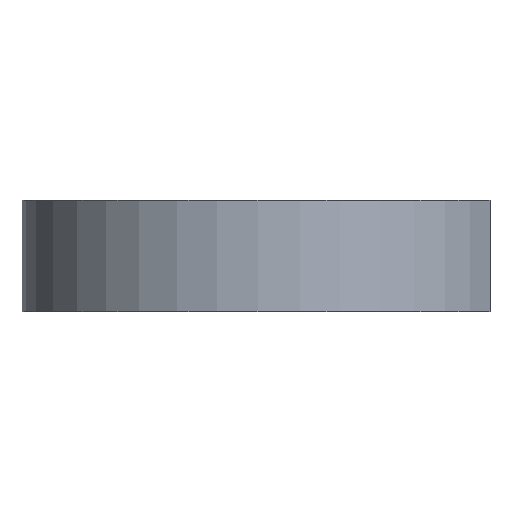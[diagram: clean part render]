
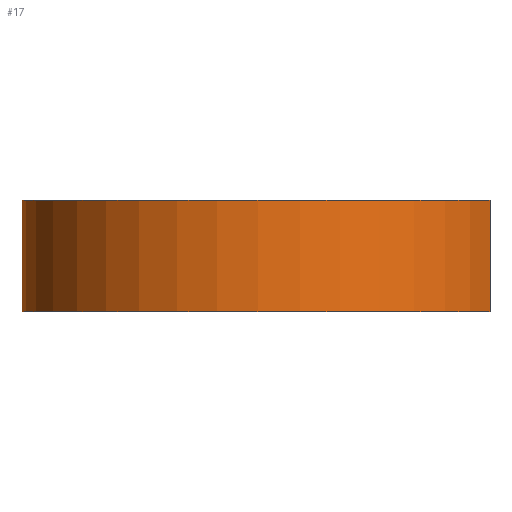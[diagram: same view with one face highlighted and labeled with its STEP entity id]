
A CAD part, front view. The second image highlights one B-rep face of the part: STEP entity #17.
In plain terms, the highlighted cylindrical face has radius 3.95 mm (diameter 7.9 mm), a partial arc.
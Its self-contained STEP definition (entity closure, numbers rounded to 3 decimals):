
#17 = ADVANCED_FACE('',(#18),#33,.T.);
#18 = FACE_BOUND('',#19,.T.);
#19 = EDGE_LOOP('',(#20,#56,#82,#111));
#20 = ORIENTED_EDGE('',*,*,#21,.F.);
#21 = EDGE_CURVE('',#22,#24,#26,.T.);
#22 = VERTEX_POINT('',#23);
#23 = CARTESIAN_POINT('',(3.627,1.564,0.9));
#24 = VERTEX_POINT('',#25);
#25 = CARTESIAN_POINT('',(3.627,-1.564,0.9));
#26 = SURFACE_CURVE('',#27,(#32,#44),.PCURVE_S1.);
#27 = CIRCLE('',#28,3.95);
#28 = AXIS2_PLACEMENT_3D('',#29,#30,#31);
#29 = CARTESIAN_POINT('',(0.,0.,0.9));
#30 = DIRECTION('',(0.,0.,1.));
#31 = DIRECTION('',(1.,0.,-0.));
#32 = PCURVE('',#33,#38);
#33 = CYLINDRICAL_SURFACE('',#34,3.95);
#34 = AXIS2_PLACEMENT_3D('',#35,#36,#37);
#35 = CARTESIAN_POINT('',(0.,0.,-0.9));
#36 = DIRECTION('',(0.,0.,1.));
#37 = DIRECTION('',(1.,0.,-0.));
#38 = DEFINITIONAL_REPRESENTATION('',(#39),#43);
#39 = LINE('',#40,#41);
#40 = CARTESIAN_POINT('',(0.,1.8));
#41 = VECTOR('',#42,1.);
#42 = DIRECTION('',(1.,0.));
#43 = ( GEOMETRIC_REPRESENTATION_CONTEXT(2) 
PARAMETRIC_REPRESENTATION_CONTEXT() REPRESENTATION_CONTEXT('2D SPACE',''
  ) );
#44 = PCURVE('',#45,#50);
#45 = PLANE('',#46);
#46 = AXIS2_PLACEMENT_3D('',#47,#48,#49);
#47 = CARTESIAN_POINT('',(0.,0.,0.9));
#48 = DIRECTION('',(0.,0.,1.));
#49 = DIRECTION('',(1.,0.,-0.));
#50 = DEFINITIONAL_REPRESENTATION('',(#51),#55);
#51 = CIRCLE('',#52,3.95);
#52 = AXIS2_PLACEMENT_2D('',#53,#54);
#53 = CARTESIAN_POINT('',(0.,0.));
#54 = DIRECTION('',(1.,0.));
#55 = ( GEOMETRIC_REPRESENTATION_CONTEXT(2) 
PARAMETRIC_REPRESENTATION_CONTEXT() REPRESENTATION_CONTEXT('2D SPACE',''
  ) );
#56 = ORIENTED_EDGE('',*,*,#57,.F.);
#57 = EDGE_CURVE('',#58,#22,#60,.T.);
#58 = VERTEX_POINT('',#59);
#59 = CARTESIAN_POINT('',(3.627,1.564,-0.9));
#60 = SURFACE_CURVE('',#61,(#65,#71),.PCURVE_S1.);
#61 = LINE('',#62,#63);
#62 = CARTESIAN_POINT('',(3.627,1.564,-0.9));
#63 = VECTOR('',#64,1.);
#64 = DIRECTION('',(0.,0.,1.));
#65 = PCURVE('',#33,#66);
#66 = DEFINITIONAL_REPRESENTATION('',(#67),#70);
#67 = B_SPLINE_CURVE_WITH_KNOTS('',1,(#68,#69),.UNSPECIFIED.,.F.,.F.,(2,
    2),(0.,1.8),.PIECEWISE_BEZIER_KNOTS.);
#68 = CARTESIAN_POINT('',(0.407,0.));
#69 = CARTESIAN_POINT('',(0.407,1.8));
#70 = ( GEOMETRIC_REPRESENTATION_CONTEXT(2) 
PARAMETRIC_REPRESENTATION_CONTEXT() REPRESENTATION_CONTEXT('2D SPACE',''
  ) );
#71 = PCURVE('',#72,#77);
#72 = PLANE('',#73);
#73 = AXIS2_PLACEMENT_3D('',#74,#75,#76);
#74 = CARTESIAN_POINT('',(-1.,1.564,-0.92));
#75 = DIRECTION('',(-0.,1.,0.));
#76 = DIRECTION('',(0.,0.,1.));
#77 = DEFINITIONAL_REPRESENTATION('',(#78),#81);
#78 = B_SPLINE_CURVE_WITH_KNOTS('',1,(#79,#80),.UNSPECIFIED.,.F.,.F.,(2,
    2),(0.,1.8),.PIECEWISE_BEZIER_KNOTS.);
#79 = CARTESIAN_POINT('',(0.02,4.627));
#80 = CARTESIAN_POINT('',(1.82,4.627));
#81 = ( GEOMETRIC_REPRESENTATION_CONTEXT(2) 
PARAMETRIC_REPRESENTATION_CONTEXT() REPRESENTATION_CONTEXT('2D SPACE',''
  ) );
#82 = ORIENTED_EDGE('',*,*,#83,.T.);
#83 = EDGE_CURVE('',#58,#84,#86,.T.);
#84 = VERTEX_POINT('',#85);
#85 = CARTESIAN_POINT('',(3.627,-1.564,-0.9));
#86 = SURFACE_CURVE('',#87,(#92,#99),.PCURVE_S1.);
#87 = CIRCLE('',#88,3.95);
#88 = AXIS2_PLACEMENT_3D('',#89,#90,#91);
#89 = CARTESIAN_POINT('',(0.,0.,-0.9));
#90 = DIRECTION('',(0.,0.,1.));
#91 = DIRECTION('',(1.,0.,-0.));
#92 = PCURVE('',#33,#93);
#93 = DEFINITIONAL_REPRESENTATION('',(#94),#98);
#94 = LINE('',#95,#96);
#95 = CARTESIAN_POINT('',(0.,0.));
#96 = VECTOR('',#97,1.);
#97 = DIRECTION('',(1.,0.));
#98 = ( GEOMETRIC_REPRESENTATION_CONTEXT(2) 
PARAMETRIC_REPRESENTATION_CONTEXT() REPRESENTATION_CONTEXT('2D SPACE',''
  ) );
#99 = PCURVE('',#100,#105);
#100 = PLANE('',#101);
#101 = AXIS2_PLACEMENT_3D('',#102,#103,#104);
#102 = CARTESIAN_POINT('',(0.,0.,-0.9));
#103 = DIRECTION('',(0.,0.,1.));
#104 = DIRECTION('',(1.,0.,-0.));
#105 = DEFINITIONAL_REPRESENTATION('',(#106),#110);
#106 = CIRCLE('',#107,3.95);
#107 = AXIS2_PLACEMENT_2D('',#108,#109);
#108 = CARTESIAN_POINT('',(0.,0.));
#109 = DIRECTION('',(1.,0.));
#110 = ( GEOMETRIC_REPRESENTATION_CONTEXT(2) 
PARAMETRIC_REPRESENTATION_CONTEXT() REPRESENTATION_CONTEXT('2D SPACE',''
  ) );
#111 = ORIENTED_EDGE('',*,*,#112,.T.);
#112 = EDGE_CURVE('',#84,#24,#113,.T.);
#113 = SURFACE_CURVE('',#114,(#118,#124),.PCURVE_S1.);
#114 = LINE('',#115,#116);
#115 = CARTESIAN_POINT('',(3.627,-1.564,-0.9));
#116 = VECTOR('',#117,1.);
#117 = DIRECTION('',(0.,0.,1.));
#118 = PCURVE('',#33,#119);
#119 = DEFINITIONAL_REPRESENTATION('',(#120),#123);
#120 = B_SPLINE_CURVE_WITH_KNOTS('',1,(#121,#122),.UNSPECIFIED.,.F.,.F.,
  (2,2),(0.,1.8),.PIECEWISE_BEZIER_KNOTS.);
#121 = CARTESIAN_POINT('',(5.876,0.));
#122 = CARTESIAN_POINT('',(5.876,1.8));
#123 = ( GEOMETRIC_REPRESENTATION_CONTEXT(2) 
PARAMETRIC_REPRESENTATION_CONTEXT() REPRESENTATION_CONTEXT('2D SPACE',''
  ) );
#124 = PCURVE('',#125,#130);
#125 = PLANE('',#126);
#126 = AXIS2_PLACEMENT_3D('',#127,#128,#129);
#127 = CARTESIAN_POINT('',(-1.,-1.564,-0.92));
#128 = DIRECTION('',(-0.,1.,0.));
#129 = DIRECTION('',(0.,0.,1.));
#130 = DEFINITIONAL_REPRESENTATION('',(#131),#134);
#131 = B_SPLINE_CURVE_WITH_KNOTS('',1,(#132,#133),.UNSPECIFIED.,.F.,.F.,
  (2,2),(0.,1.8),.PIECEWISE_BEZIER_KNOTS.);
#132 = CARTESIAN_POINT('',(0.02,4.627));
#133 = CARTESIAN_POINT('',(1.82,4.627));
#134 = ( GEOMETRIC_REPRESENTATION_CONTEXT(2) 
PARAMETRIC_REPRESENTATION_CONTEXT() REPRESENTATION_CONTEXT('2D SPACE',''
  ) );
